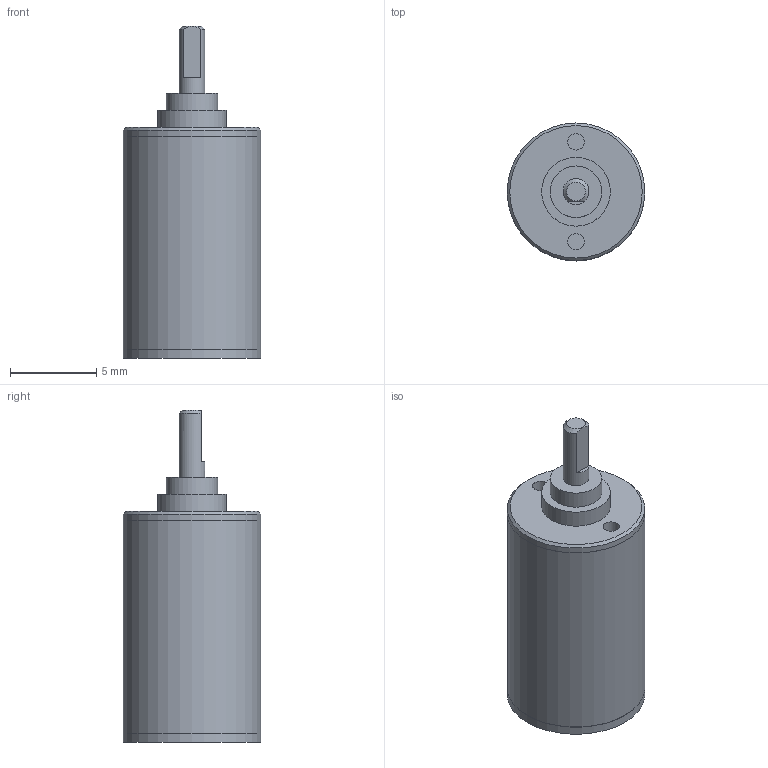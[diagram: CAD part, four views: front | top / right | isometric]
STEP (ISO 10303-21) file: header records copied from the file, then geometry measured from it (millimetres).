
FILE_DESCRIPTION(/* description */ (''),/* implementation_level */ '2;1');
FILE_NAME(/* name */ '08-2_3.stp',/* time_stamp */ '2016-08-23T14:01:14+02:00',/* author */ ('DR. FRITZ FAULHABER GmbH & Co. KG'),/* organization */ ('DR. FRITZ FAULHABER GmbH & Co. KG'),/* preprocessor_version */ 'ST-DEVELOPER v16',/* originating_system */ 'SIEMENS PLM Software NX 10.0',/* authorisation */ '');
FILE_SCHEMA (('AUTOMOTIVE_DESIGN { 1 0 10303 214 3 1 1 1 }'));
Length unit declared in the file: millimetre
Products named in the file (1): H00000389_A
Bounding box: 8 x 8 x 19.3 mm (x, y, z)
Volume: 626.5 mm3; surface area: 548.3 mm2
Topology: 1 solids, 1 shells, 33 faces, 56 edges, 37 vertices
Faces by surface type: plane 16, cylinder 14, cone 3
Full cylindrical faces by diameter (mm): 0.95 x2, 1.5 x1, 2.13 x1, 2.53 x1, 3 x1, 4 x1, 4.959 x1, 6 x1, 7.99 x2, 8 x3
Entity records: 709 total; most frequent: DIRECTION 133, CARTESIAN_POINT 115, ORIENTED_EDGE 72, AXIS2_PLACEMENT_3D 65, EDGE_LOOP 61, FACE_BOUND 54, EDGE_CURVE 36, ADVANCED_FACE 33
